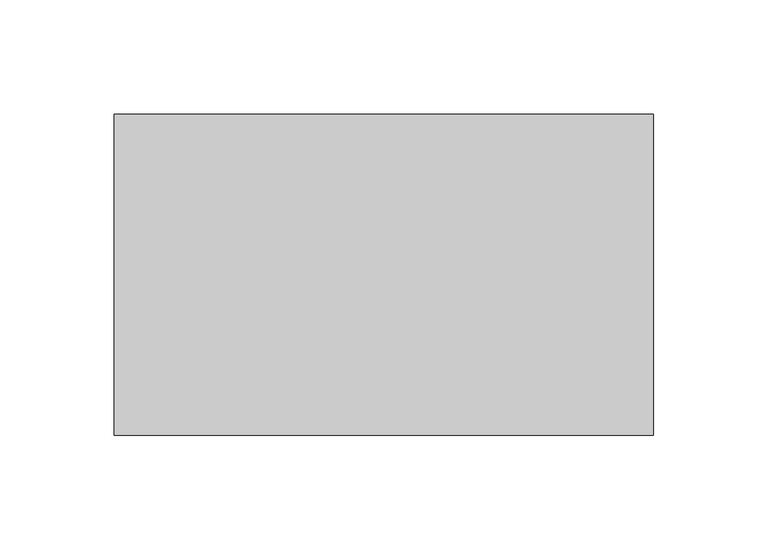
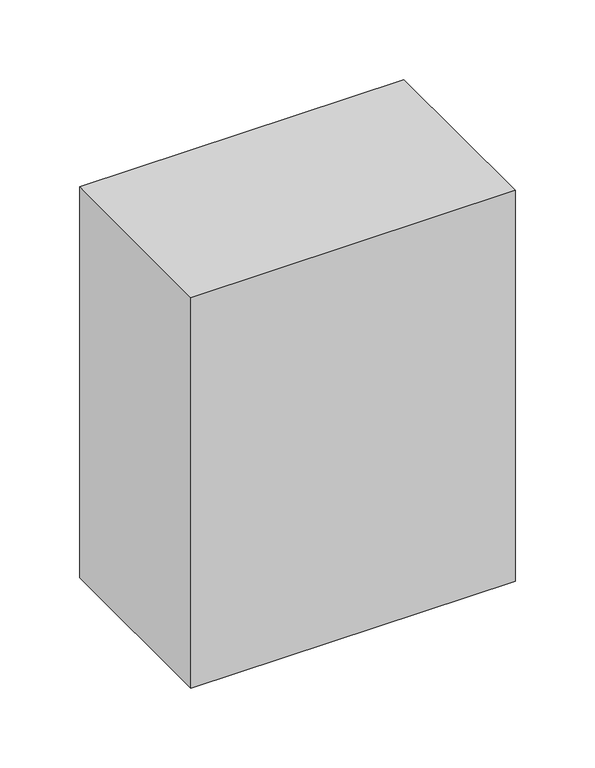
"""IFC4 building model written with IfcOpenShell, lengths in millimetres: proxy geometry."""

from ifc_helpers import new_model, si_unit, frame, origin, place, context, project, spatial, polyline, outline, extrude, source, transform, mapped, element, save


def structural_framing_dbc896d8(model_context):
    return source(origin(), model_context, "Body", "SweptSolid", [
        extrude(outline(polyline([(-117.7, -70.0), (-117.7, 70.0), (117.7, 70.0), (117.7, -70.0), (-117.7, -70.0)])), frame((0.0, 0.0, -300.0), z_axis=(0.0, 0.0, 1.0), x_axis=(1.0, 0.0, 0.0)), (0.0, 0.0, 1.0), 300.0),
    ])


if __name__ == "__main__":
    model = new_model("IFC4")
    model_context = context("Model", 3, world=origin())
    ifc_project = project(units=[si_unit("LENGTHUNIT", "METRE", prefix="MILLI")], contexts=[model_context])
    site = spatial("IfcSite", under=ifc_project)
    building = spatial("IfcBuilding", under=site)
    placement = place(None, origin())
    structural_framing_shape = structural_framing_dbc896d8(model_context)
    element("IfcBuildingElementProxy", 1, Name="Structural Framing", at=placement, inside=building, context=model_context, shape_type="MappedRepresentation", body=[
        mapped(structural_framing_shape, transform((0.0, 0.0, 0.0), x_axis=(1.0, 0.0, 0.0), y_axis=(0.0, 1.0, 0.0), z_axis=(0.0, 0.0, 1.0))),
    ])
    save(model, "model.ifc")
